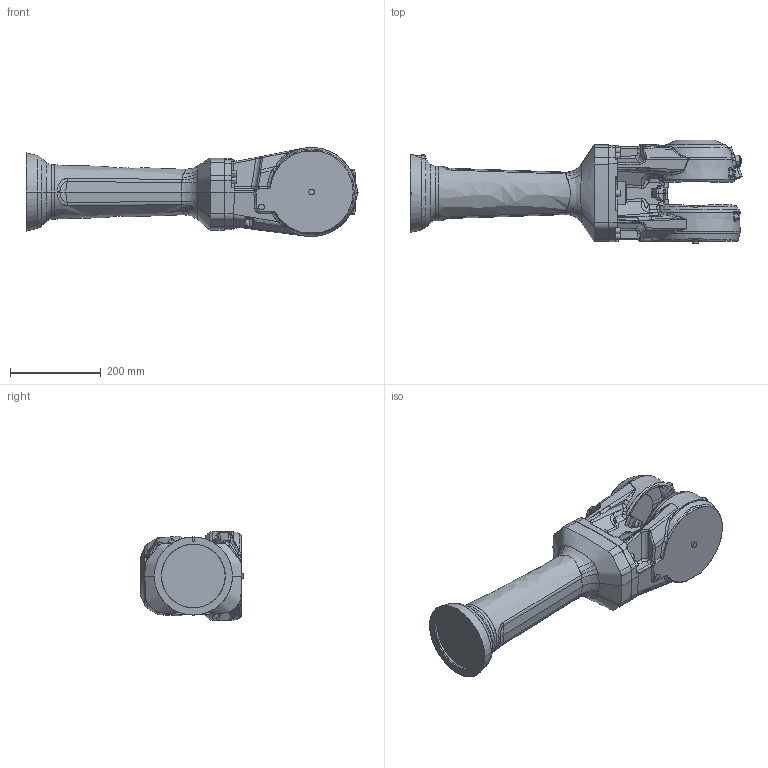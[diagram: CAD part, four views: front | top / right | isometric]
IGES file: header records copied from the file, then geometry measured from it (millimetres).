
Start section: SolidWorks IGES file using analytic representation for surfaces
Global section: file name: C:\Data\SAP_DOC\_2016-Q4_Lättmodeller RobCal\CAD Model_IRB4600_Rev04\IRB4600_45kg-205_IRC5_rev04\IRB4600_45kg-205_IRC5_rev04_IRC5_IGES_j\IRB4600_45kg-205_LINK4_CAD_rev04.IGS; native system: SolidWorks 2014; preprocessor: SolidWorks 2014; author: SEMAAXM; date: 161206.113130; units: millimetre
Bounding box: 730.73 x 228 x 195.91 mm (x, y, z)
Surface area: 530630.7 mm2 (no closed solid volume)
Topology: 0 solids, 0 shells, 771 faces, 10207 edges, 10196 vertices
Faces by surface type: bspline 494, revolution 277
